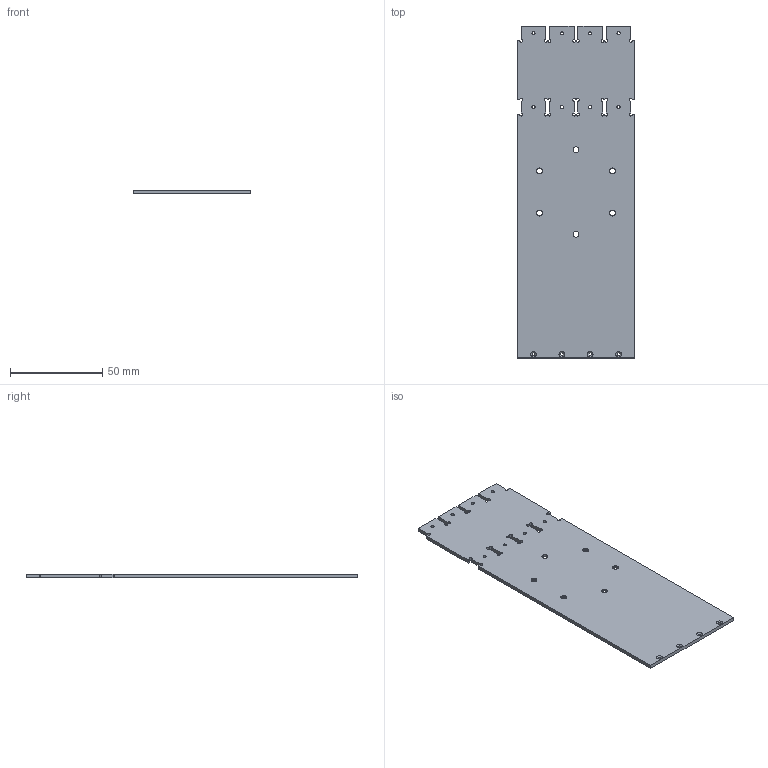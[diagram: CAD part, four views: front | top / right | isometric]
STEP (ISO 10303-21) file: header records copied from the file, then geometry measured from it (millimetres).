
FILE_DESCRIPTION(('FreeCAD Model'),'2;1');
FILE_NAME('Open CASCADE Shape Model','2025-04-03T07:09:03',(''),(''), 'Open CASCADE STEP processor 7.6','FreeCAD','Unknown');
FILE_SCHEMA(('CONFIG_CONTROL_DESIGN','SHAPE_APPEARANCE_LAYER_MIM'));
Length unit declared in the file: millimetre
Products named in the file (1): TopCCDAssemblyFrame
Bounding box: 63.48 x 180 x 2 mm (x, y, z)
Volume: 22235.1 mm3; surface area: 23818.5 mm2
Topology: 1 solids, 1 shells, 114 faces, 318 edges, 206 vertices
Faces by surface type: cylinder 54, plane 42, cone 18
Full cylindrical faces by diameter (mm): 1.7 x12, 3.2 x6
Entity records: 3820 total; most frequent: DIRECTION 674, CARTESIAN_POINT 639, ORIENTED_EDGE 636, EDGE_CURVE 318, AXIS2_PLACEMENT_3D 241, VERTEX_POINT 206, LINE 192, VECTOR 192
